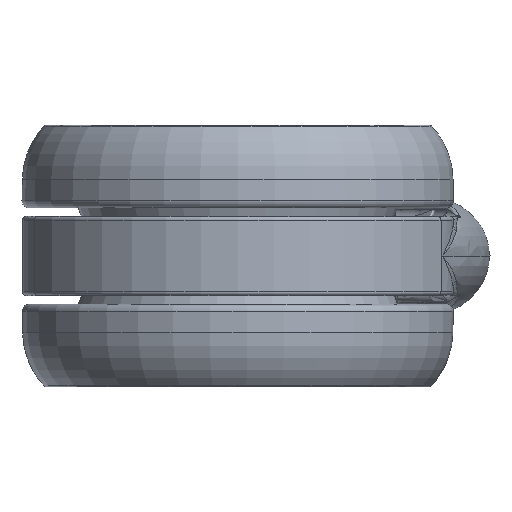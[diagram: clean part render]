
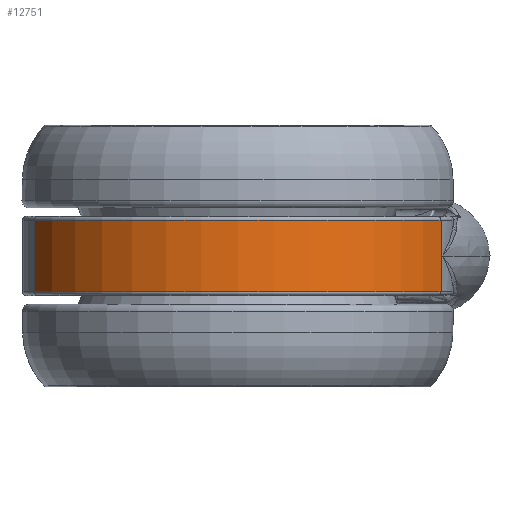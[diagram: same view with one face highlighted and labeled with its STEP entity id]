
A CAD part, front view. The second image highlights one B-rep face of the part: STEP entity #12751.
In plain terms, the highlighted cylindrical face has radius 30.924 mm (diameter 61.847 mm), a partial arc.
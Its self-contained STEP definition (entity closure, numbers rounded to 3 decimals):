
#199 = LINE ( 'NONE', #9718, #13483 ) ;
#568 = CARTESIAN_POINT ( 'NONE',  ( 28.273, -8.602, -5. ) ) ;
#937 = CARTESIAN_POINT ( 'NONE',  ( -28.273, -8.602, 12.5 ) ) ;
#1281 = VERTEX_POINT ( 'NONE', #13178 ) ;
#2691 = EDGE_CURVE ( 'NONE', #1281, #3076, #6652, .T. ) ;
#3076 = VERTEX_POINT ( 'NONE', #11252 ) ;
#3241 = ORIENTED_EDGE ( 'NONE', *, *, #13016, .T. ) ;
#4012 = DIRECTION ( 'NONE',  ( 1., 0., 0. ) ) ;
#4202 = DIRECTION ( 'NONE',  ( 0., 0., 1. ) ) ;
#4308 = DIRECTION ( 'NONE',  ( -1., 0., 0. ) ) ;
#4695 = AXIS2_PLACEMENT_3D ( 'NONE', #15061, #13764, #4308 ) ;
#4965 = CARTESIAN_POINT ( 'NONE',  ( 28.273, -8.602, 5. ) ) ;
#5335 = DIRECTION ( 'NONE',  ( 0., 0., -1. ) ) ;
#5667 = EDGE_CURVE ( 'NONE', #11872, #1281, #8791, .T. ) ;
#6652 = LINE ( 'NONE', #937, #14794 ) ;
#6792 = CYLINDRICAL_SURFACE ( 'NONE', #4695, 30.924 ) ;
#7075 = EDGE_LOOP ( 'NONE', ( #12457, #3241, #11673, #10764 ) ) ;
#8791 = CIRCLE ( 'NONE', #12957, 30.924 ) ;
#9156 = AXIS2_PLACEMENT_3D ( 'NONE', #11258, #4202, #9450 ) ;
#9448 = EDGE_CURVE ( 'NONE', #14632, #11872, #199, .T. ) ;
#9450 = DIRECTION ( 'NONE',  ( -1., 0., 0. ) ) ;
#9718 = CARTESIAN_POINT ( 'NONE',  ( 28.273, -8.602, 12.5 ) ) ;
#9796 = DIRECTION ( 'NONE',  ( 0., 0., 1. ) ) ;
#10764 = ORIENTED_EDGE ( 'NONE', *, *, #5667, .T. ) ;
#11252 = CARTESIAN_POINT ( 'NONE',  ( -28.273, -8.602, -5. ) ) ;
#11258 = CARTESIAN_POINT ( 'NONE',  ( 0., 3.924, -5. ) ) ;
#11673 = ORIENTED_EDGE ( 'NONE', *, *, #9448, .T. ) ;
#11872 = VERTEX_POINT ( 'NONE', #4965 ) ;
#12214 = CARTESIAN_POINT ( 'NONE',  ( 0., 3.924, 5. ) ) ;
#12457 = ORIENTED_EDGE ( 'NONE', *, *, #2691, .T. ) ;
#12751 = ADVANCED_FACE ( 'NONE', ( #13975 ), #6792, .T. ) ;
#12957 = AXIS2_PLACEMENT_3D ( 'NONE', #12214, #14776, #4012 ) ;
#13016 = EDGE_CURVE ( 'NONE', #3076, #14632, #15307, .T. ) ;
#13178 = CARTESIAN_POINT ( 'NONE',  ( -28.273, -8.602, 5. ) ) ;
#13483 = VECTOR ( 'NONE', #9796, 1000. ) ;
#13764 = DIRECTION ( 'NONE',  ( 0., 0., -1. ) ) ;
#13975 = FACE_OUTER_BOUND ( 'NONE', #7075, .T. ) ;
#14632 = VERTEX_POINT ( 'NONE', #568 ) ;
#14776 = DIRECTION ( 'NONE',  ( 0., 0., -1. ) ) ;
#14794 = VECTOR ( 'NONE', #5335, 1000. ) ;
#15061 = CARTESIAN_POINT ( 'NONE',  ( 0., 3.924, 12.5 ) ) ;
#15307 = CIRCLE ( 'NONE', #9156, 30.924 ) ;
